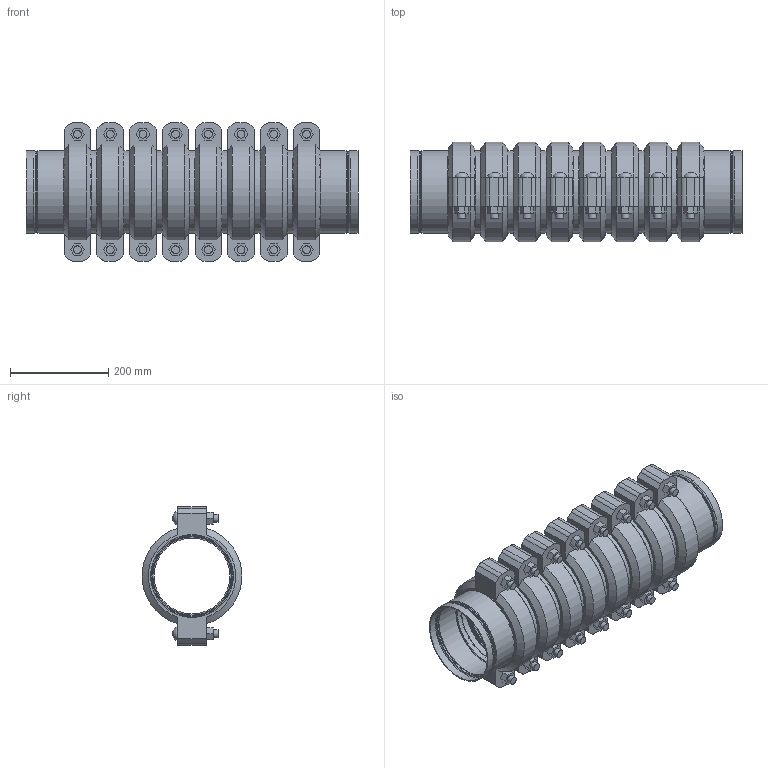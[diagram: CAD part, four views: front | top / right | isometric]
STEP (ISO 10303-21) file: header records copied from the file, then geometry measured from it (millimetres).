
FILE_DESCRIPTION(/* description */ ('VIC STRENGTHIN 100 EXPANSION JOINT 8 COUPLINGS EXPANDED STYLE E155 (ST1)','CAx-IF Rec.Pracs.---Representation and Presentation of Product Manufacturing Information (PMI)---4.0---2014-10-13'),/* implementation_level */ '2;1');
FILE_NAME(/* name */ 'C:\Users\Vjadhav\AppData\Roaming\Autodesk\ApplicationPlugins\Victaulic.Temp\A374\Victaulic_SS-StrengThin 100_Expansion Joint_Expanded_8 Couplings_Style E155 (ST1)_6 (150).stp',/* time_stamp */ '2021-07-23T19:34:41+05:00',/* author */ ('kkamble'),/* organization */ ('Victaulic'),/* preprocessor_version */ 'ST-DEVELOPER v17.2',/* originating_system */ 'Autodesk Inventor 2019',/* authorisation */ '');
FILE_SCHEMA (('AP242_MANAGED_MODEL_BASED_3D_ENGINEERING_MIM_LF { 1 0 10303 442 1 1 4 }'));
Length unit declared in the file: inch
Products named in the file (4): E155-06.0; E494G-06.0; Nipple-06.0; 075-06.0
Assembly tree (17 placements, depth 2):
  E155-06.0
    E494G-06.0  x2
    Nipple-06.0  x7
    075-06.0  x8
Bounding box: 674.88 x 202.46 x 281.18 mm (x, y, z)
Volume: 7630860.7 mm3; surface area: 1640675.1 mm2
Topology: 17 solids, 33 shells, 608 faces, 1496 edges, 1054 vertices
Faces by surface type: plane 342, cylinder 182, cone 36, torus 32, bspline 16
Full cylindrical faces by diameter (mm): 15.875 x32, 17.424 x16, 154.051 x7, 159.258 x2, 159.944 x2, 161.925 x8, 163.271 x2, 163.957 x16, 164.262 x6, 168.275 x43
Entity records: 3798 total; most frequent: DIRECTION 677, CARTESIAN_POINT 663, ORIENTED_EDGE 548, AXIS2_PLACEMENT_3D 289, EDGE_CURVE 274, VERTEX_POINT 197, CIRCLE 167, EDGE_LOOP 129
